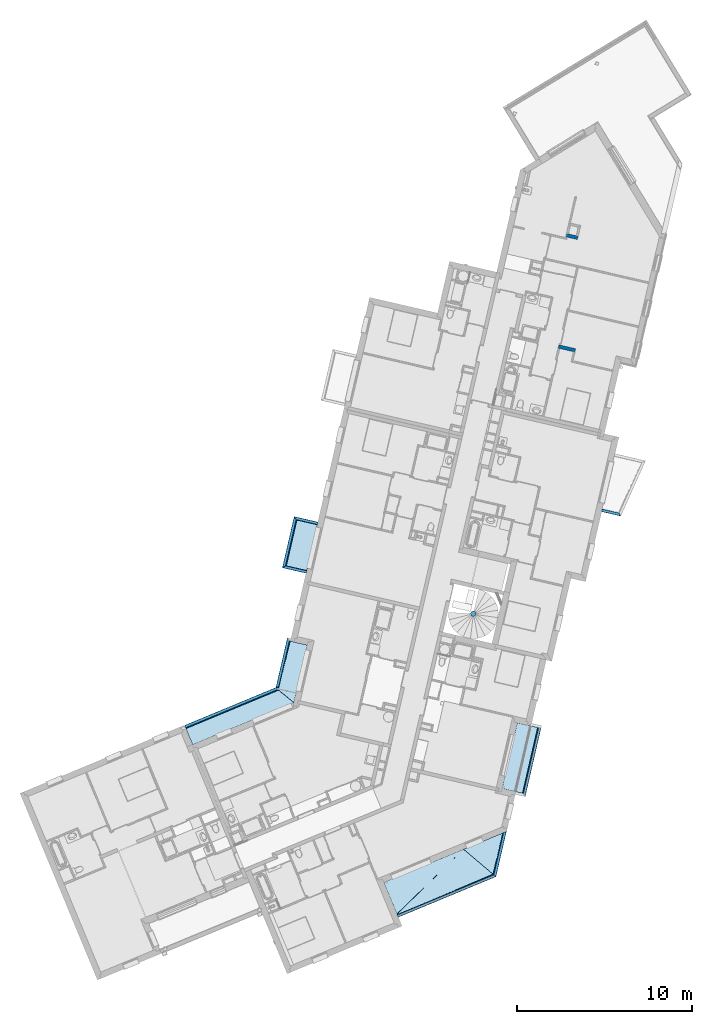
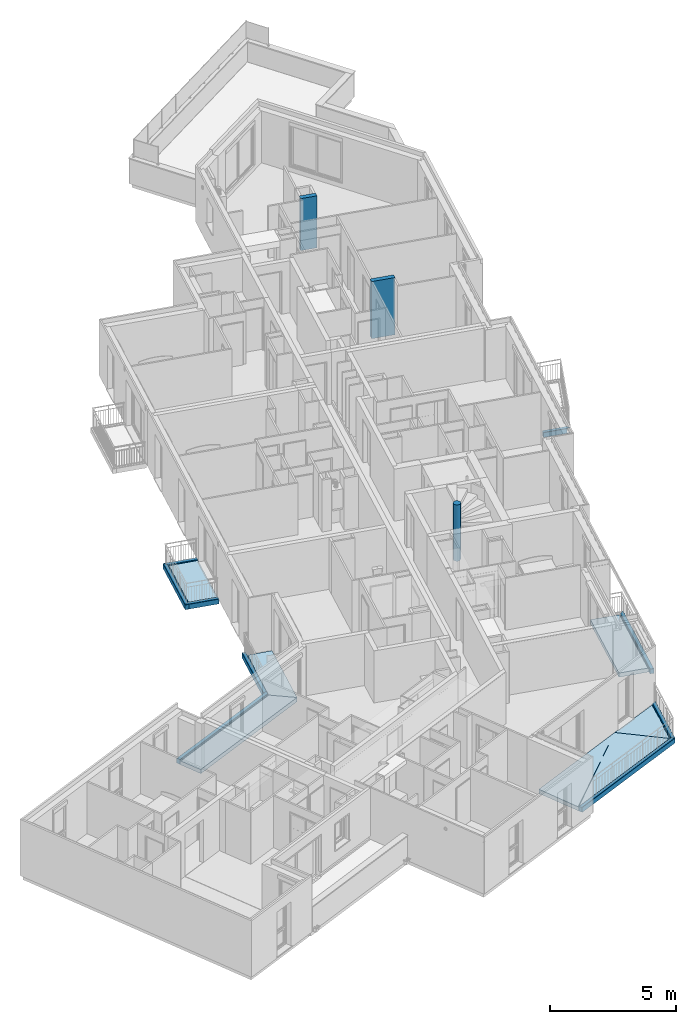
# One storey, part 1 of 91: 15 slabs, 2 columns, 1 member.
"""IFC2X3 building model written with IfcOpenShell, lengths in metres."""

import ifcopenshell
import ifcopenshell.guid

model = None  # the IFC model being written
_history = None  # IfcOwnerHistory: only IFC2X3 demands one
_inside = {}  # id of a spatial element -> (the spatial element, [elements in it])
_under = {}  # id of a project, library or spatial element -> (it, [spatial elements below it])
_declared = {}  # id of a project -> (the project, [libraries it declares])
_typed = {}  # id of a type object -> (the type object, [elements of that type])
_made_of = {}  # id of a material, layer set ... -> (it, [elements and type objects made of it])


def new_model(schema):
    """Start an empty IFC model of exactly this schema.

    Asked for "IFC4X3", IfcOpenShell would pick the latest addendum, in which some entities
    have other attributes; the version numbers below select the first issue.
    IFC2X3 requires an IfcOwnerHistory on every rooted entity: one is made here for all.
    """
    global model, _history
    if schema == "IFC4X3":
        model = ifcopenshell.file(schema_version=(4, 3, 0, 0))
    else:
        model = ifcopenshell.file(schema=schema)
    _inside.clear()
    _under.clear()
    _declared.clear()
    _typed.clear()
    _made_of.clear()
    _history = None
    if model.schema == "IFC2X3":
        org = make("IfcOrganization", Name="unknown")
        user = make(
            "IfcPersonAndOrganization",
            ThePerson=make("IfcPerson", FamilyName="unknown"),
            TheOrganization=org,
        )
        app = make(
            "IfcApplication",
            ApplicationDeveloper=org,
            Version="unknown",
            ApplicationFullName="unknown",
            ApplicationIdentifier="unknown",
        )
        _history = make(
            "IfcOwnerHistory",
            OwningUser=user,
            OwningApplication=app,
            ChangeAction="ADDED",
            CreationDate=0,
        )
    return model


def make(cls, **values):
    """One entity of the class cls with the attributes given. An attribute that is None is left unset."""
    return model.create_entity(
        cls, **{name: value for name, value in values.items() if value is not None}
    )


def entity(cls, *values):
    """Any entity or typed value of the class cls, its attributes in the order of the schema. None: left unset."""
    e = model.create_entity(cls)
    for i, value in enumerate(values):
        if value is not None:
            e[i] = value
    return e


def rooted(cls, **values):
    """An entity with a GlobalId (a new one), such as an element, a storey or a relation."""
    return make(cls, GlobalId=ifcopenshell.guid.new(), OwnerHistory=_history, **values)


def si_unit(unit_type, name, prefix=None):
    """IfcSIUnit, for example si_unit("LENGTHUNIT", "METRE", prefix="MILLI")."""
    return make("IfcSIUnit", UnitType=unit_type, Prefix=prefix, Name=name)


def converted_unit(unit_type, name, factor, base, dimensions=None, offset=None):
    """IfcConversionBasedUnit, such as the inch: factor (a typed value) times the base unit."""
    return make(
        "IfcConversionBasedUnit"
        if offset is None
        else "IfcConversionBasedUnitWithOffset",
        ConversionOffset=offset,
        Dimensions=None
        if dimensions is None
        else entity("IfcDimensionalExponents", *dimensions),
        UnitType=unit_type,
        Name=name,
        ConversionFactor=make(
            "IfcMeasureWithUnit", ValueComponent=factor, UnitComponent=base
        ),
    )


def derived_unit(unit_type, elements):
    """IfcDerivedUnit: a product of units, each with its exponent."""
    return make(
        "IfcDerivedUnit",
        Elements=[
            make("IfcDerivedUnitElement", Unit=unit, Exponent=power)
            for unit, power in elements
        ],
        UnitType=unit_type,
    )


def money_unit(currency):
    """IfcMonetaryUnit."""
    return make("IfcMonetaryUnit", Currency=currency)


def assignment(units):
    """IfcUnitAssignment: the units of a project."""
    return None if units is None else make("IfcUnitAssignment", Units=units)


def point(xyz):
    """IfcCartesianPoint."""
    return None if xyz is None else make("IfcCartesianPoint", Coordinates=xyz)


def direction(xyz):
    """IfcDirection."""
    return None if xyz is None else make("IfcDirection", DirectionRatios=xyz)


def frame(location, z_axis=None, x_axis=None):
    """IfcAxis2Placement3D, a coordinate frame: its origin and axes. An axis left out is left unset."""
    return make(
        "IfcAxis2Placement3D",
        Location=point(location),
        Axis=direction(z_axis),
        RefDirection=direction(x_axis),
    )


def origin_with_axes():
    """The frame at (0, 0, 0) with the z axis (0, 0, 1) and the x axis (1, 0, 0) written out."""
    return frame((0.0, 0.0, 0.0), z_axis=(0.0, 0.0, 1.0), x_axis=(1.0, 0.0, 0.0))


def place(relative_to, where):
    """IfcLocalPlacement: puts the frame where relative to a parent placement (None: the world)."""
    return make(
        "IfcLocalPlacement", PlacementRelTo=relative_to, RelativePlacement=where
    )


def context(
    kind, dimensions, precision=None, world=None, true_north=None, identifier=None
):
    """IfcGeometricRepresentationContext, for example the 3D "Model" context."""
    return make(
        "IfcGeometricRepresentationContext",
        ContextIdentifier=identifier,
        ContextType=kind,
        CoordinateSpaceDimension=dimensions,
        Precision=precision,
        WorldCoordinateSystem=world,
        TrueNorth=true_north,
    )


def subcontext(parent, identifier, kind, view, scale=None):
    """IfcGeometricRepresentationSubContext, for example "Body" below "Model"."""
    return make(
        "IfcGeometricRepresentationSubContext",
        ContextIdentifier=identifier,
        ContextType=kind,
        ParentContext=parent,
        TargetScale=scale,
        TargetView=view,
    )


def project(units=None, contexts=None):
    """IfcProject with its units and contexts."""
    return rooted(
        "IfcProject",
        Name="project",
        RepresentationContexts=contexts,
        UnitsInContext=assignment(units),
    )


def spatial(cls, under=None, at=None, **own):
    """A site, building, storey or space (cls), placed at a placement, below another one or the project."""
    s = rooted(cls, ObjectPlacement=at, **own)
    if under is not None:
        _under.setdefault(under.id(), (under, []))[1].append(s)
    return s


def faces_of(points, faces, orient=None, outer=None):
    """IfcFace entities. A face is a list of loops; a loop is a list of indices into points, from 0.

    orient and outer hold one flag for each loop. By default every Orientation is true, the
    first loop of a face is its IfcFaceOuterBound and the others are IfcFaceBound.
    """
    made = []
    for i, loops in enumerate(faces):
        bounds = []
        for j, loop in enumerate(loops):
            is_outer = j == 0 if outer is None else outer[i][j]
            bounds.append(
                make(
                    "IfcFaceOuterBound" if is_outer else "IfcFaceBound",
                    Bound=make("IfcPolyLoop", Polygon=[points[k] for k in loop]),
                    Orientation=True if orient is None else orient[i][j],
                )
            )
        made.append(make("IfcFace", Bounds=bounds))
    return made


def faceted_brep(points, faces, orient=None, outer=None, voids=None):
    """IfcFacetedBrep: a solid bounded by flat faces; with voids (closed shells), ...WithVoids."""
    shared = [point(p) for p in points]
    hull = make("IfcClosedShell", CfsFaces=faces_of(shared, faces, orient, outer))
    if voids is None:
        return make("IfcFacetedBrep", Outer=hull)
    return make(
        "IfcFacetedBrepWithVoids",
        Outer=hull,
        Voids=[
            make(cls, CfsFaces=faces_of(shared, fs, o, b)) for cls, fs, o, b in voids
        ],
    )


def shape(context_of_items, identifier, shape_type, items):
    """IfcShapeRepresentation: the items that make up one representation, for example the "Body"."""
    return make(
        "IfcShapeRepresentation",
        ContextOfItems=context_of_items,
        RepresentationIdentifier=identifier,
        RepresentationType=shape_type,
        Items=items,
    )


def material(Name=None, Category=None):
    """IfcMaterial."""
    return make("IfcMaterial", Name=Name, Category=Category)


def made_of(thing, what):
    """Note that an element or type object is made of a material, layer set ...; save() writes the relation."""
    if what is not None:
        _made_of.setdefault(what.id(), (what, []))[1].append(thing)
    return thing


def type_object(cls, material=None, **own):
    """A type object (cls), such as IfcWallType, which elements share."""
    return made_of(rooted(cls, **own), material)


def element(
    cls,
    number,
    at=None,
    inside=None,
    cuts=None,
    type_object=None,
    material=None,
    context=None,
    identifier="Body",
    shape_type=None,
    held_by="IfcProductDefinitionShape",
    body=None,
    shapes=None,
    **own,
):
    """One element of the class cls, such as IfcWall. Its Tag is "e" and its number.

    at: its placement. inside: the storey or other place that contains it. cuts: it is an
    opening in that element (IfcRelVoidsElement). A single representation is given by context,
    identifier, shape_type and body (its items); several are given by shapes. held_by: the class
    of the entity that holds the representations. save() writes the other relations.
    """
    e = rooted(cls, Tag="e%d" % number, ObjectPlacement=at, **own)
    if body is not None:
        shapes = [shape(context, identifier, shape_type, body)]
    if shapes is not None:
        e.Representation = make(held_by, Representations=shapes)
    if inside is not None:
        _inside.setdefault(inside.id(), (inside, []))[1].append(e)
    if cuts is not None:
        rooted(
            "IfcRelVoidsElement", RelatingBuildingElement=cuts, RelatedOpeningElement=e
        )
    if type_object is not None:
        _typed.setdefault(type_object.id(), (type_object, []))[1].append(e)
    return made_of(e, material)


def aggregate(whole, parts):
    """IfcRelAggregates: a whole, such as a stair, and the parts it consists of."""
    return rooted("IfcRelAggregates", RelatingObject=whole, RelatedObjects=parts)


def save(model, path):
    """Write the relations noted so far, then the file.

    IfcRelAggregates (storeys below a building ...), IfcRelContainedInSpatialStructure (elements
    in a storey), IfcRelDefinesByType, IfcRelAssociatesMaterial and IfcRelDeclares: one each for
    every whole, place, type object, material and project.
    """
    for whole, parts in _under.values():
        aggregate(whole, parts)
    for where, things in _inside.values():
        rooted(
            "IfcRelContainedInSpatialStructure",
            RelatedElements=things,
            RelatingStructure=where,
        )
    for kind, things in _typed.values():
        rooted("IfcRelDefinesByType", RelatedObjects=things, RelatingType=kind)
    for what, things in _made_of.values():
        rooted("IfcRelAssociatesMaterial", RelatedObjects=things, RelatingMaterial=what)
    for by, libraries in _declared.values():
        rooted("IfcRelDeclares", RelatingContext=by, RelatedDefinitions=libraries)
    model.write(path)


model = new_model("IFC2X3")

# Units and contexts
model_context = context("Model", 3, precision=1e-05, world=origin_with_axes(), true_north=direction((0.0, 1.0)))
body_context = subcontext(model_context, "Body", "Model", "MODEL_VIEW")
ifc_project = project(units=[si_unit("LENGTHUNIT", "METRE"), si_unit("AREAUNIT", "SQUARE_METRE"), si_unit("VOLUMEUNIT", "CUBIC_METRE"), converted_unit("PLANEANGLEUNIT", "DEGREE", entity("IfcPlaneAngleMeasure", 0.0174532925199), si_unit("PLANEANGLEUNIT", "RADIAN"), dimensions=[0, 0, 0, 0, 0, 0, 0]), si_unit("SOLIDANGLEUNIT", "STERADIAN"), money_unit("EUR"), converted_unit("TIMEUNIT", "Year", entity("IfcTimeMeasure", 31556926.0), si_unit("TIMEUNIT", "SECOND"), dimensions=[0, 0, 1, 0, 0, 0, 0]), si_unit("MASSUNIT", "GRAM", prefix="KILO"), si_unit("THERMODYNAMICTEMPERATUREUNIT", "DEGREE_CELSIUS"), si_unit("LUMINOUSINTENSITYUNIT", "LUMEN"), si_unit("ENERGYUNIT", "JOULE", prefix="MEGA"), derived_unit("THERMALCONDUCTANCEUNIT", [(si_unit("POWERUNIT", "WATT"), 1), (si_unit("LENGTHUNIT", "METRE"), -1), (si_unit("THERMODYNAMICTEMPERATUREUNIT", "KELVIN"), -1)]), derived_unit("SPECIFICHEATCAPACITYUNIT", [(si_unit("ENERGYUNIT", "JOULE"), 1), (si_unit("MASSUNIT", "GRAM", prefix="KILO"), -1), (si_unit("THERMODYNAMICTEMPERATUREUNIT", "KELVIN"), -1)]), derived_unit("MASSDENSITYUNIT", [(si_unit("MASSUNIT", "GRAM", prefix="KILO"), 1), (si_unit("VOLUMEUNIT", "CUBIC_METRE"), -1)])], contexts=[model_context])

# Site, building, storey
site_placement = place(None, origin_with_axes())
site = spatial("IfcSite", under=ifc_project, at=site_placement, Name="Site", CompositionType="ELEMENT")
building_placement = place(site_placement, origin_with_axes())
building = spatial("IfcBuilding", under=site, at=building_placement, Name="Bâtiment", CompositionType="ELEMENT")
storey_placement = place(building_placement, frame((0.0, 0.0, 5.44), z_axis=(0.0, 0.0, 1.0), x_axis=(1.0, 0.0, 0.0)))
storey = spatial("IfcBuildingStorey", under=building, at=storey_placement, Name="R+2", CompositionType="ELEMENT", Elevation=5.44)

# Columns
ifc_material_1 = material(Name="Béton armé (Coulé)")
column_type_1 = type_object("IfcColumnType", Name="Béton armé (Coulé) 200 x 672", PredefinedType="COLUMN")
column_1_placement = place(storey_placement, frame((-3.89795690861, 13.8398993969, 0.0), z_axis=(0.0, 0.0, 1.0), x_axis=(-0.224876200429, -0.974387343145, 0.0)))
element("IfcColumn", 1, at=column_1_placement, inside=storey, type_object=column_type_1, material=ifc_material_1, Name="Pot-002", ObjectType="COLUMN", context=body_context, shape_type="Brep", body=[
    faceted_brep([(0.1, 0.336198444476, 2.51000000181), (0.1, 0.336198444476, 0.0), (-0.1, 0.336198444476, 0.0), (-0.1, 0.336198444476, 2.51000000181), (0.1, -0.336198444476, 2.51000000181), (0.1, -0.336198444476, 0.0), (-0.1, -0.336198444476, 0.0), (-0.1, -0.336198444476, 2.51000000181)], [[[0, 1, 2, 3]], [[4, 5, 1, 0]], [[2, 1, 5, 6]], [[3, 2, 6, 7]], [[4, 0, 3, 7]], [[7, 6, 5, 4]]]),
])
column_type_2 = type_object("IfcColumnType", Name="Béton armé (Coulé) 200 x 971", PredefinedType="COLUMN")
column_2_placement = place(storey_placement, frame((-4.18580227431, 7.45201835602, -0.25), z_axis=(0.0, 0.0, 1.0), x_axis=(-0.224876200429, -0.974387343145, 0.0)))
element("IfcColumn", 2, at=column_2_placement, inside=storey, type_object=column_type_2, material=ifc_material_1, Name="Pot-002", ObjectType="COLUMN", context=body_context, shape_type="Brep", body=[
    faceted_brep([(0.1, 0.485304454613, 2.76), (0.1, 0.485304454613, 0.0), (-0.1, 0.485304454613, 0.0), (-0.1, 0.485304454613, 2.76), (0.1, -0.485304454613, 2.76), (0.1, -0.485304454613, 0.0), (-0.1, -0.485304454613, 0.0), (-0.1, -0.485304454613, 2.76)], [[[0, 1, 2, 3]], [[4, 5, 1, 0]], [[2, 1, 5, 6]], [[3, 2, 6, 7]], [[4, 0, 3, 7]], [[7, 6, 5, 4]]]),
])

# Member
ifc_material_2 = material(Name="Béton")
member_type = type_object("IfcMemberType", Name="Béton D300", PredefinedType="USERDEFINED")
member_placement = place(storey_placement, frame((-9.52980076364, -7.68659305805, 0.0), z_axis=(0.0, 0.0, 1.0), x_axis=(0.0549398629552, 0.998489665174, 0.0)))
element("IfcMember", 3, at=member_placement, inside=storey, type_object=member_type, material=ifc_material_2, Name="Pot-001", ObjectType="STAIR_STRUCTURE", context=body_context, shape_type="Brep", body=[
    faceted_brep([(-0.15, 0.0, 2.72), (-0.15, 0.0, 0.0), (-0.146239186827, -0.0333781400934, 0.0), (-0.146239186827, -0.0333781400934, 2.72), (-0.146239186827, 0.0333781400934, 2.72), (-0.146239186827, 0.0333781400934, 0.0), (-0.135145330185, 0.0650825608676, 0.0), (-0.11727472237, 0.0935234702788, 0.0), (-0.0935234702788, 0.11727472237, 0.0), (-0.0650825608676, 0.135145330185, 0.0), (-0.0333781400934, 0.146239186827, 0.0), (0.0, 0.15, 0.0), (0.0333781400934, 0.146239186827, 0.0), (0.0650825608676, 0.135145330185, 0.0), (0.0935234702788, 0.11727472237, 0.0), (0.11727472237, 0.0935234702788, 0.0), (0.135145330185, 0.0650825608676, 0.0), (0.146239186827, 0.0333781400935, 0.0), (0.15, 0.0, 0.0), (0.146239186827, -0.0333781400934, 0.0), (0.135145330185, -0.0650825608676, 0.0), (0.11727472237, -0.0935234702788, 0.0), (0.0935234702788, -0.11727472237, 0.0), (0.0650825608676, -0.135145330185, 0.0), (0.0333781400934, -0.146239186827, 0.0), (0.0, -0.15, 0.0), (-0.0333781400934, -0.146239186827, 0.0), (-0.0650825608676, -0.135145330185, 0.0), (-0.0935234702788, -0.11727472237, 0.0), (-0.11727472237, -0.0935234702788, 0.0), (-0.135145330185, -0.0650825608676, 0.0), (-0.135145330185, -0.0650825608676, 2.72), (-0.11727472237, -0.0935234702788, 2.72), (-0.0935234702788, -0.11727472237, 2.72), (-0.0650825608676, -0.135145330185, 2.72), (-0.0333781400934, -0.146239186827, 2.72), (0.0, -0.15, 2.72), (0.0333781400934, -0.146239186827, 2.72), (0.0650825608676, -0.135145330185, 2.72), (0.0935234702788, -0.11727472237, 2.72), (0.11727472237, -0.0935234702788, 2.72), (0.135145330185, -0.0650825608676, 2.72), (0.146239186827, -0.0333781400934, 2.72), (0.15, 0.0, 2.72), (0.146239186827, 0.0333781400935, 2.72), (0.135145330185, 0.0650825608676, 2.72), (0.11727472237, 0.0935234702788, 2.72), (0.0935234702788, 0.11727472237, 2.72), (0.0650825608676, 0.135145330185, 2.72), (0.0333781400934, 0.146239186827, 2.72), (0.0, 0.15, 2.72), (-0.0333781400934, 0.146239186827, 2.72), (-0.0650825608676, 0.135145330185, 2.72), (-0.0935234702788, 0.11727472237, 2.72), (-0.11727472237, 0.0935234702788, 2.72), (-0.135145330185, 0.0650825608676, 2.72)], [[[0, 1, 2, 3]], [[4, 5, 1, 0]], [[2, 1, 5, 6, 7, 8, 9, 10, 11, 12, 13, 14, 15, 16, 17, 18, 19, 20, 21, 22, 23, 24, 25, 26, 27, 28, 29, 30]], [[3, 2, 30, 31]], [[4, 0, 3, 31, 32, 33, 34, 35, 36, 37, 38, 39, 40, 41, 42, 43, 44, 45, 46, 47, 48, 49, 50, 51, 52, 53, 54, 55]], [[55, 6, 5, 4]], [[54, 7, 6, 55]], [[53, 8, 7, 54]], [[52, 9, 8, 53]], [[51, 10, 9, 52]], [[50, 11, 10, 51]], [[49, 12, 11, 50]], [[48, 13, 12, 49]], [[47, 14, 13, 48]], [[46, 15, 14, 47]], [[45, 16, 15, 46]], [[44, 17, 16, 45]], [[43, 18, 17, 44]], [[42, 19, 18, 43]], [[41, 20, 19, 42]], [[40, 21, 20, 41]], [[39, 22, 21, 40]], [[38, 23, 22, 39]], [[37, 24, 23, 38]], [[36, 25, 24, 37]], [[35, 26, 25, 36]], [[34, 27, 26, 35]], [[33, 28, 27, 34]], [[32, 29, 28, 33]], [[31, 30, 29, 32]]]),
])

# Slabs
slab_type_1 = type_object("IfcSlabType", Name="Nez de balcon 160 x 239", PredefinedType="USERDEFINED")
slab_1_placement = place(storey_placement, frame((-5.62822290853, -14.0694469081, -0.22), z_axis=(0.0, 0.0, 1.0), x_axis=(-0.224876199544, -0.974387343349, 0.0)))
element("IfcSlab", 4, at=slab_1_placement, inside=storey, type_object=slab_type_1, material=ifc_material_2, Name="Nez-de-balcon béton", ObjectType="BALCONY", PredefinedType="USERDEFINED", context=body_context, shape_type="Brep", body=[
    faceted_brep([(4.15549377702, -0.00998052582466, 0.239376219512), (4.16707891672, -0.150019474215, 0.230623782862), (4.16775247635, -0.150605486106, 0.230000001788), (4.16531401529, 0.0, 0.230000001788), (0.00998052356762, -0.00998052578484, 0.239376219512), (0.150019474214, -0.150019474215, 0.230623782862), (0.159999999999, -0.16, 0.22), (4.1679045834, -0.16, 0.22), (4.16571669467, -0.0248704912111, 0.00872065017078), (4.16561006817, -0.018284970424, 0.00622819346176), (4.16555688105, -0.015, 0.0), (4.16531401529, 0.0, 0.0), (4.16790458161, -0.16, 0.00872064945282), (0.150019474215, -0.000663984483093, 0.230623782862), (0.150605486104, 0.0, 0.23000000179), (4.13644444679, -0.16, 0.00622819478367), (4.14303083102, -0.16, 0.00872064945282), (0.159999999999, -0.16, 0.00872064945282), (0.159999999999, -0.16, 0.0), (4.1331590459, -0.16, 0.0), (0.16, 0.0, 0.22), (0.0182849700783, -0.0182849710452, 0.00622819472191), (4.14084294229, -0.0248704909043, 0.00872064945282), (0.16, -0.0248704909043, 0.00872064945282), (0.0248704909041, -0.0248704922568, 0.00872065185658), (0.0149999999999, -0.0150000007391, 0.0), (0.015, 0.0, 0.0), (0.0182849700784, 0.0, 0.00622819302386), (0.0248704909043, 0.0, 0.00872064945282), (0.16, 0.0, 0.00872065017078), (4.13436318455, -0.0314560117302, 0.00622819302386), (0.16, -0.0314560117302, 0.00622819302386), (0.16, -0.0347409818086, 0.0), (4.13113097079, -0.0347409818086, 0.0)], [[[0, 1, 2, 3]], [[1, 0, 4, 5]], [[6, 7, 2, 1, 5]], [[8, 9, 10, 11, 3, 2, 7, 12]], [[13, 4, 0, 3, 14]], [[4, 13, 5]], [[15, 16, 12, 7, 6, 17, 18, 19]], [[14, 20, 6, 5, 13]], [[21, 9, 8, 22, 23, 24]], [[25, 10, 9, 21]], [[26, 11, 10, 25]], [[14, 3, 11, 26, 27, 28, 29, 20]], [[16, 22, 8, 12]], [[30, 22, 16, 15]], [[6, 20, 29, 23, 17]], [[23, 31, 32, 18, 17]], [[32, 33, 19, 18]], [[19, 33, 30, 15]], [[23, 22, 30, 31]], [[24, 23, 29, 28]], [[24, 28, 27, 21]], [[21, 27, 26, 25]], [[31, 30, 33, 32]]]),
])
slab_2_placement = place(storey_placement, frame((-13.8185121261, -25.0128508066, -0.22), z_axis=(0.0, 0.0, 1.0), x_axis=(0.923701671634, 0.383112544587, 0.0)))
element("IfcSlab", 5, at=slab_2_placement, inside=storey, type_object=slab_type_1, material=ifc_material_2, Name="Nez-de-balcon béton", ObjectType="BALCONY", PredefinedType="USERDEFINED", context=body_context, shape_type="Brep", body=[
    faceted_brep([(6.06230733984, 0.0248704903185, 0.00872065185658), (6.03174979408, 0.0248704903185, 0.00872065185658), (6.12821580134, 0.16, 0.00872065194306), (6.15877334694, 0.16, 0.00872064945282), (0.0, 0.0248704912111, 0.00872065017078), (6.05760608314, 0.018284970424, 0.00622819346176), (0.0, 0.018284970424, 0.00622819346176), (6.02835964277, 0.0314560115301, 0.00622819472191), (6.12012439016, 0.16, 0.00622819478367), (6.11608825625, 0.16, 0.0), (0.0, 0.16, 0.0), (0.0, 0.16, 0.22), (6.15877334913, 0.16, 0.22), (6.15206681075, 0.150605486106, 0.230000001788), (6.0445528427, 1.10591358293e-09, 0.230000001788), (6.04455284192, 0.0, 0.0), (6.05526101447, 0.015, 0.0), (0.0, 0.0314560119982, 0.00622819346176), (0.0, 0.015, 0.0), (0.0, 0.00998052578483, 0.239376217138), (0.0, 0.150019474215, 0.230623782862), (0.0, 0.0347409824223, 0.0), (0.0, 0.0, 0.0), (0.0, 0.0, 0.23), (6.02666857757, 0.0347409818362, 0.0), (6.15083265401, 0.150019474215, 0.230623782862), (6.03941498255, 0.00998052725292, 0.239376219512)], [[[0, 1, 2, 3]], [[4, 1, 0, 5, 6]], [[7, 8, 2, 1]], [[2, 8, 9, 10, 11, 12, 3]], [[5, 0, 3, 12, 13, 14, 15, 16]], [[17, 7, 1, 4]], [[18, 6, 5, 16]], [[19, 20, 11, 10, 21, 17, 4, 6, 18, 22, 23]], [[24, 9, 8, 7]], [[10, 9, 24, 21]], [[11, 20, 25, 13, 12]], [[26, 14, 13, 25]], [[23, 22, 15, 14]], [[22, 18, 16, 15]], [[21, 24, 7, 17]], [[20, 19, 26, 25]], [[19, 23, 14, 26]]]),
])
slab_3_placement = place(storey_placement, frame((-7.6424895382, -20.1291184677, -0.22), z_axis=(0.0, 0.0, 1.0), x_axis=(-0.224876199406, -0.974387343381, 0.0)))
element("IfcSlab", 6, at=slab_3_placement, inside=storey, type_object=slab_type_1, material=ifc_material_2, Name="Nez-de-balcon béton", ObjectType="BALCONY", PredefinedType="USERDEFINED", context=body_context, shape_type="Brep", body=[
    faceted_brep([(2.45665804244, -0.0248704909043, 0.00872064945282), (2.55312404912, -0.16, 0.00872064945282), (2.55312404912, -0.16, 0.0), (2.46370437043, -0.0347409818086, 0.0), (2.461359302, -0.0314560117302, 0.00622819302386), (2.43890354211, -2.83308487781e-10, 0.00872065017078), (2.43890354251, -8.45245651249e-10, 0.22), (2.55312404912, -0.16, 0.22), (0.0957905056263, -0.16, 0.00872064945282), (0.0957905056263, -0.16, 0.0), (0.0957905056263, -0.16, 0.22), (0.0957905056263, -0.16, 0.02), (0.0957905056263, -0.16, 0.00999999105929), (0.00637082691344, -0.0347409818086, 0.0), (0.00402575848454, -0.0314560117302, 0.00622819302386), (-0.000675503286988, -0.0248704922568, 0.00872065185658), (2.60493267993, 0.0, 0.00872064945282), (2.61302409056, 0.0, 0.00622819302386), (2.61706022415, 0.0, 0.0), (-0.0184300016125, 0.0, 0.0), (-0.0184300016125, 0.0, 0.00872065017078), (-0.0184300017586, 2.04632755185e-10, 0.00999999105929), (-0.0184300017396, 1.78037140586e-10, 0.02), (-0.0184300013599, -3.53900908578e-10, 0.22), (-0.0184300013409, -3.80498299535e-10, 0.230000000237), (2.45044626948, -8.74151417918e-10, 0.23000000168), (2.45164028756, -0.000663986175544, 0.230623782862), (2.55826190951, -0.150019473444, 0.230623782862), (2.6226871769, -0.0248704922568, 0.00872065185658), (0.0886656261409, -0.150019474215, 0.230623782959), (-0.00537675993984, -0.0182849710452, 0.00622819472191), (2.62607732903, -0.0182849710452, 0.00622819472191), (2.62776839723, -0.0150000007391, 0.0), (-0.00772182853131, -0.0150000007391, 0.0), (-0.0113050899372, -0.00998057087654, 0.239376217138), (2.63035236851, -0.00998052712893, 0.239376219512)], [[[0, 1, 2, 3, 4]], [[5, 6, 7, 1, 0]], [[8, 9, 2, 1, 7, 10, 11, 12]], [[9, 13, 3, 2]], [[13, 14, 4, 3]], [[14, 15, 0, 4]], [[5, 16, 17, 18, 19, 20, 21, 22, 23, 24, 25, 6]], [[25, 26, 27, 7, 6]], [[5, 0, 28, 16]], [[15, 14, 13, 9, 8]], [[29, 10, 7, 27]], [[23, 22, 11, 10]], [[22, 21, 12, 11]], [[20, 15, 8, 12, 21]], [[15, 30, 31, 28, 0]], [[16, 28, 31, 17]], [[17, 31, 32, 18]], [[33, 19, 18, 32]], [[20, 19, 33, 30, 15]], [[24, 23, 10, 29, 34]], [[24, 34, 35, 26, 25]], [[27, 26, 35]], [[34, 29, 27, 35]], [[30, 33, 32, 31]]]),
])
slab_4_placement = place(storey_placement, frame((-19.7551998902, -2.14216067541, -0.22), z_axis=(0.0, 0.0, 1.0), x_axis=(-0.224876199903, -0.974387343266, 0.0)))
element("IfcSlab", 7, at=slab_4_placement, inside=storey, type_object=slab_type_1, material=ifc_material_2, Name="Nez-de-balcon béton", ObjectType="BALCONY", PredefinedType="USERDEFINED", context=body_context, shape_type="Brep", body=[
    faceted_brep([(3.0, 0.16, 0.00872064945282), (2.97512950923, 0.16, 0.00872065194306), (2.96854398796, 0.16, 0.00622819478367), (2.96525901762, 0.16, 0.0), (0.0347409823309, 0.16, 0.0), (0.0314560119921, 0.16, 0.00622819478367), (0.0248704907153, 0.16, 0.00872065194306), (0.0, 0.16, 0.00872064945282), (-1.78813763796e-09, 0.16, 0.22), (3.00000000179, 0.16, 0.22), (3.0, 0.0248704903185, 0.00872065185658), (2.97512950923, 0.0248704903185, 0.00872065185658), (2.96854398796, 0.0314560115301, 0.00622819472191), (2.96525901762, 0.0347409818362, 0.0), (0.0347409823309, 0.0347409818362, 0.0), (0.0314560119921, 0.0314560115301, 0.00622819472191), (0.0248704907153, 0.0248704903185, 0.00872065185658), (0.0, 0.0248704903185, 0.00872065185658), (-1.78813763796e-09, 0.018284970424, 0.00622819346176), (-1.78813674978e-09, 0.015, 0.0), (-1.78813763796e-09, 0.0, 0.0), (-1.78813763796e-09, 0.0, 0.230000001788), (-1.78813763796e-09, 0.150605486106, 0.230000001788), (0.0006639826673, 0.150019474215, 0.230623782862), (2.99933601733, 0.150019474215, 0.230623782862), (3.00000000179, 0.150605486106, 0.230000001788), (3.00000000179, 0.018284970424, 0.00622819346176), (3.00000000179, 0.0, 0.230000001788), (3.00000000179, 0.0, 0.0), (3.00000000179, 0.015, 0.0), (0.0099805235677, 0.00998052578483, 0.239376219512), (2.99001947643, 0.00998052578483, 0.239376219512)], [[[0, 1, 2, 3, 4, 5, 6, 7, 8, 9]], [[10, 11, 1, 0]], [[12, 2, 1, 11]], [[12, 13, 3, 2]], [[4, 3, 13, 14]], [[15, 5, 4, 14]], [[15, 16, 6, 5]], [[7, 6, 16, 17]], [[8, 7, 17, 18, 19, 20, 21, 22]], [[22, 23, 24, 25, 9, 8]], [[26, 10, 0, 9, 25, 27, 28, 29]], [[16, 11, 10, 26, 18, 17]], [[15, 12, 11, 16]], [[14, 13, 12, 15]], [[19, 18, 26, 29]], [[20, 19, 29, 28]], [[21, 20, 28, 27]], [[21, 30, 23, 22]], [[23, 30, 31, 24]], [[31, 27, 25, 24]], [[30, 21, 27, 31]]]),
])
slab_5_placement = place(storey_placement, frame((-19.7551998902, -2.14216067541, -0.22), z_axis=(0.0, 0.0, 1.0), x_axis=(0.974387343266, -0.224876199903, 0.0)))
element("IfcSlab", 8, at=slab_5_placement, inside=storey, type_object=slab_type_1, material=ifc_material_2, Name="Nez-de-balcon béton", ObjectType="BALCONY", PredefinedType="USERDEFINED", context=body_context, shape_type="Brep", body=[
    faceted_brep([(1.40000000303, -0.16, 0.0), (0.16, -0.16, 0.0), (0.16, -0.0347409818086, 0.0), (1.40000000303, -0.0347409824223, 0.0), (0.16, -0.16, 0.22), (0.16, -0.16, 0.00872064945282), (1.40000000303, -0.16, 0.22), (0.16, -0.0314560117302, 0.00622819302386), (0.16, -0.0248704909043, 0.00872064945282), (1.40000000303, -0.0314560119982, 0.00622819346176), (1.40000000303, -0.0248704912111, 0.00872065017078), (1.40000000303, -0.018284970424, 0.00622819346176), (1.40000000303, -0.015, 0.0), (1.40000000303, 0.0, 0.0), (1.40000000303, 0.0, 0.23), (1.40000000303, -0.00998052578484, 0.239376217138), (1.40000000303, -0.150019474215, 0.230623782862), (0.16, 0.0, 0.22), (0.16, 0.0, 0.00872065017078), (0.150019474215, -0.150019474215, 0.230623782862), (0.0248704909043, -0.0248704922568, 0.00872065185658), (0.0182849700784, -0.0182849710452, 0.00622819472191), (0.015, -0.0150000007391, 0.0), (0.015, 0.0, 0.0), (0.0182849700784, 0.0, 0.00622819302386), (0.0248704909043, 0.0, 0.00872064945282), (0.150605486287, 0.0, 0.230000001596), (0.150019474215, -0.000663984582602, 0.230623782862), (0.0099805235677, -0.00998052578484, 0.239376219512)], [[[0, 1, 2, 3]], [[4, 5, 1, 0, 6]], [[7, 2, 1, 5, 8]], [[9, 3, 2, 7]], [[6, 0, 3, 9, 10, 11, 12, 13, 14, 15, 16]], [[8, 5, 4, 17, 18]], [[16, 19, 4, 6]], [[10, 9, 7, 8]], [[10, 8, 20, 21, 11]], [[11, 21, 22, 12]], [[12, 22, 23, 13]], [[13, 23, 24, 25, 18, 17, 26, 14]], [[14, 26, 27, 28, 15]], [[15, 28, 19, 16]], [[17, 4, 19, 27, 26]], [[25, 20, 8, 18]], [[24, 21, 20, 25]], [[23, 22, 21, 24]], [[27, 19, 28]]]),
])
slab_6_placement = place(storey_placement, frame((-20.4298284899, -5.06532270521, -0.22), z_axis=(0.0, 0.0, 1.0), x_axis=(0.974387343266, -0.224876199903, 0.0)))
element("IfcSlab", 9, at=slab_6_placement, inside=storey, type_object=slab_type_1, material=ifc_material_2, Name="Nez-de-balcon béton", ObjectType="BALCONY", PredefinedType="USERDEFINED", context=body_context, shape_type="Brep", body=[
    faceted_brep([(0.0182849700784, 0.0182849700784, 0.00622819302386), (0.015, 0.015, 0.0), (0.015, 0.0, 0.0), (0.0182849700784, 0.0, 0.00622819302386), (1.39999999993, 0.015, 0.0), (1.39999999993, 0.018284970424, 0.00622819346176), (1.39999999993, 0.0, 0.0), (0.150605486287, 0.0, 0.230000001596), (0.16, 0.0, 0.22), (0.16, 0.0, 0.00872065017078), (0.0248704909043, 0.0, 0.00872064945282), (1.39999999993, 0.0, 0.23), (0.0248704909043, 0.0248704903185, 0.00872065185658), (0.16, 0.0248704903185, 0.00872065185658), (1.39999999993, 0.0248704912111, 0.00872065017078), (1.39999999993, 0.00998052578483, 0.239376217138), (1.39999999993, 0.0314560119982, 0.00622819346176), (1.39999999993, 0.0347409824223, 0.0), (1.39999999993, 0.16, 0.0), (1.39999999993, 0.16, 0.22), (1.39999999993, 0.150019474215, 0.230623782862), (0.16, 0.16, 0.22), (0.150019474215, 0.000663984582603, 0.230623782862), (0.150019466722, 0.150019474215, 0.23062378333), (0.16, 0.16, 0.00872064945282), (0.00998052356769, 0.00998052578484, 0.239376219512), (0.16, 0.0314560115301, 0.00622819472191), (0.16, 0.0347409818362, 0.0), (0.16, 0.16, 0.0)], [[[0, 1, 2, 3]], [[4, 1, 0, 5]], [[6, 2, 1, 4]], [[7, 8, 9, 10, 3, 2, 6, 11]], [[0, 3, 10, 12]], [[0, 12, 13, 14, 5]], [[15, 11, 6, 4, 5, 14, 16, 17, 18, 19, 20]], [[21, 8, 7, 22, 23]], [[24, 13, 9, 8, 21]], [[10, 9, 13, 12]], [[25, 22, 7, 11, 15]], [[14, 13, 26, 16]], [[16, 26, 27, 17]], [[18, 17, 27, 28]], [[18, 28, 24, 21, 19]], [[19, 21, 23, 20]], [[23, 25, 15, 20]], [[23, 22, 25]], [[27, 26, 13, 24, 28]]]),
])
slab_7_placement = place(storey_placement, frame((-20.795535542, -11.8972610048, -0.21), z_axis=(0.0, 0.0, 1.0), x_axis=(0.224876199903, 0.974387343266, 0.0)))
element("IfcSlab", 10, at=slab_7_placement, inside=storey, type_object=slab_type_1, material=ifc_material_2, Name="Nez-de-balcon béton", ObjectType="BALCONY", PredefinedType="USERDEFINED", context=body_context, shape_type="Brep", body=[
    faceted_brep([(0.0, 0.0, 0.00872064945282), (0.0, 0.0, 0.0), (0.0107081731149, -0.0150000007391, 0.0), (0.0130532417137, -0.0182849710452, 0.00622819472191), (0.0177545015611, -0.0248704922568, 0.00872065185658), (2.92078646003, 0.0, 0.0), (0.0, 0.0, 0.23), (2.92078646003, 0.0, 0.230000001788), (2.92078646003, -0.015, 0.0), (2.92078646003, -0.018284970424, 0.00622819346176), (2.89591596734, -0.0248704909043, 0.00872064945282), (2.92078646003, -0.0248704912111, 0.00872065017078), (0.114220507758, -0.160000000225, 0.00872065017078), (0.114220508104, -0.160000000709, 0.219999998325), (0.10751397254, -0.150605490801, 0.23), (-0.00513785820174, -0.00998052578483, 0.239376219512), (2.91080593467, -0.00998052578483, 0.239376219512), (2.92078646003, -0.150605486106, 0.230000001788), (2.92078646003, -0.160000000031, 0.219999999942), (2.92078645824, -0.16, 0.00872064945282), (-0.0161931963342, -0.0314560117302, 0.00622819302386), (-0.0128030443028, -0.0248704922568, 0.00872065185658), (2.88933044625, -0.0314560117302, 0.00622819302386), (2.89591596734, -0.16, 0.00872064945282), (0.0836629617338, -0.16, 0.00872064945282), (0.0755715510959, -0.16, 0.00622819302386), (0.0715354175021, -0.16, 0.0), (2.88604547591, -0.16, 0.0), (2.88933044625, -0.16, 0.00622819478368), (2.92012247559, -0.150019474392, 0.230623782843), (0.106279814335, -0.150019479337, 0.230623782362), (2.88604547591, -0.0347409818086, 0.0), (-0.0178842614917, -0.0347409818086, 0.0)], [[[0, 1, 2, 3, 4]], [[5, 1, 0, 6, 7]], [[8, 2, 1, 5]], [[9, 3, 2, 8]], [[10, 4, 3, 9, 11]], [[6, 0, 4, 12, 13, 14]], [[7, 6, 15, 16]], [[9, 8, 5, 7, 17, 18, 19, 11]], [[20, 21, 4, 10, 22]], [[23, 10, 11, 19]], [[12, 4, 21, 24]], [[24, 25, 26, 27, 28, 23, 19, 18, 13, 12]], [[29, 30, 14, 13, 18, 17]], [[30, 15, 6, 14]], [[16, 15, 30, 29]], [[7, 16, 29, 17]], [[24, 21, 20, 25]], [[28, 22, 10, 23]], [[31, 32, 20, 22]], [[25, 20, 32, 26]], [[27, 26, 32, 31]], [[27, 31, 22, 28]]]),
])
slab_8_placement = place(storey_placement, frame((-1.11220619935, -2.11855110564, -0.22), z_axis=(0.0, 0.0, 1.0), x_axis=(-0.974387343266, 0.224876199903, 0.0)))
element("IfcSlab", 11, at=slab_8_placement, inside=storey, type_object=slab_type_1, material=ifc_material_2, Name="Nez-de-balcon béton", ObjectType="BALCONY", PredefinedType="USERDEFINED", context=body_context, shape_type="Brep", body=[
    faceted_brep([(1.13448697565, -0.015, 0.0), (1.13448697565, 0.0, 0.0), (1.13448697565, 0.0, 0.23), (1.13448697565, -0.00998052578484, 0.239376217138), (1.13448697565, -0.150019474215, 0.230623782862), (1.13448697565, -0.16, 0.22), (1.13448697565, -0.16, 0.0), (1.13448697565, -0.0347409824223, 0.0), (1.13448697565, -0.0314560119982, 0.00622819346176), (1.13448697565, -0.0248704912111, 0.00872065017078), (1.13448697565, -0.018284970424, 0.00622819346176), (0.0152900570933, 0.0, 0.0), (0.0123259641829, -0.0150000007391, 0.0), (0.153517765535, 0.0, 0.230000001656), (0.0186385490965, 0.0, 0.00622819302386), (0.0253514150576, 0.0, 0.00872064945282), (0.163093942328, 0.0, 0.00872065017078), (0.163093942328, 0.0, 0.22), (0.00820130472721, -0.00998052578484, 0.239376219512), (0.152789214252, -0.000663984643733, 0.230623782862), (0.123275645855, -0.150019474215, 0.230623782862), (0.131476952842, -0.16, 0.22), (0.131476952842, -0.16, 0.00872064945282), (0.131476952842, -0.16, 0.0), (0.156228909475, -0.0347409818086, 0.0), (0.156878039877, -0.0314560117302, 0.00622819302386), (0.158179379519, -0.0248704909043, 0.00872064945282), (0.0150253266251, -0.0182849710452, 0.00622819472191), (0.0204368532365, -0.0248704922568, 0.00872065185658)], [[[0, 1, 2, 3, 4, 5, 6, 7, 8, 9, 10]], [[11, 1, 0, 12]], [[13, 2, 1, 11, 14, 15, 16, 17]], [[18, 3, 2, 13, 19]], [[20, 4, 3, 18]], [[21, 5, 4, 20]], [[22, 23, 6, 5, 21]], [[24, 7, 6, 23]], [[25, 8, 7, 24]], [[26, 9, 8, 25]], [[27, 10, 9, 26, 28]], [[12, 0, 10, 27]], [[14, 11, 12, 27]], [[28, 15, 14, 27]], [[28, 26, 16, 15]], [[17, 16, 26, 22, 21]], [[19, 13, 17, 21, 20]], [[20, 18, 19]], [[25, 24, 23, 22, 26]]]),
])
slab_9_placement = place(storey_placement, frame((-26.0072946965, -14.0588791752, -0.21), z_axis=(0.0, 0.0, 1.0), x_axis=(0.923701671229, 0.383112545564, 0.0)))
element("IfcSlab", 12, at=slab_9_placement, inside=storey, type_object=slab_type_1, material=ifc_material_2, Name="Nez-de-balcon béton", ObjectType="BALCONY", PredefinedType="USERDEFINED", context=body_context, shape_type="Brep", body=[
    faceted_brep([(5.82108586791, -0.0248704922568, 0.00872065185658), (5.65505672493, -0.0248704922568, 0.00872065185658), (5.67281122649, 0.0, 0.00872065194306), (5.83884036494, 0.0, 0.00872064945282), (0.0, -0.0248704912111, 0.00872065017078), (5.81638460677, -0.0314560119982, 0.00622819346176), (0.0, -0.0314560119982, 0.00622819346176), (5.65166657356, -0.0182849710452, 0.00622819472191), (5.6647198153, 0.0, 0.00622819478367), (5.66068368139, 0.0, 0.0), (0.0, 0.0, 0.0), (0.0, 0.0, 0.23), (5.82729764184, 0.0, 0.23), (5.83884036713, 0.0, 0.219999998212), (5.72461985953, -0.16, 0.219999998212), (5.72461985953, -0.16, 0.0), (5.81403953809, -0.0347409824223, 0.0), (0.0, -0.018284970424, 0.00622819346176), (0.0, -0.0347409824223, 0.0), (0.0, -0.16, 0.0), (0.0, -0.16, 0.22), (0.0, -0.150019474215, 0.230623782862), (0.0, -0.00998052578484, 0.239376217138), (0.0, -0.015, 0.0), (5.64997550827, -0.0150000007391, 0.0), (5.64739155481, -0.00998050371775, 0.239376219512), (5.82610362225, -0.000663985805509, 0.230623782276), (5.71948199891, -0.150019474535, 0.230623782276)], [[[0, 1, 2, 3]], [[4, 1, 0, 5, 6]], [[7, 8, 2, 1]], [[2, 8, 9, 10, 11, 12, 13, 3]], [[5, 0, 3, 13, 14, 15, 16]], [[17, 7, 1, 4]], [[18, 6, 5, 16]], [[6, 18, 19, 20, 21, 22, 11, 10, 23, 17, 4]], [[24, 9, 8, 7]], [[10, 9, 24, 23]], [[22, 25, 26, 12, 11]], [[27, 14, 13, 12, 26]], [[20, 19, 15, 14]], [[19, 18, 16, 15]], [[23, 24, 7, 17]], [[21, 20, 14, 27]], [[22, 21, 27, 25]], [[25, 27, 26]]]),
])
slab_type_2 = type_object("IfcSlabType", Name="Béton", PredefinedType="USERDEFINED")
slab_10_placement = place(storey_placement, frame((-10.0897756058, -22.5808700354, -0.22), z_axis=(0.0, 0.0, 1.0), x_axis=(1.0, 0.0, 0.0)))
element("IfcSlab", 13, at=slab_10_placement, inside=storey, type_object=slab_type_2, material=ifc_material_2, Name="Dalle de balcon béton", ObjectType="BALCONY", PredefinedType="USERDEFINED", context=body_context, shape_type="Brep", body=[
    faceted_brep([(1.68290227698, 0.0290591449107, 0.185321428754), (2.24220245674, 2.38293055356, 0.175417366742), (0.0, 1.45295942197, 0.198273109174), (1.69155247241, 0.0217402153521, 0.16), (0.0, 1.45295942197, 0.0), (2.24920558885, 2.38583513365, 0.16), (2.2698430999, 2.39439470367, 0.16), (2.2698430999, 2.39439470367, 0.0), (1.71724723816, 0.0, 0.0), (1.71724723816, 0.0, 0.16)], [[[0, 1, 2]], [[0, 3, 1]], [[4, 2, 1, 5, 6, 7]], [[8, 9, 3, 0, 2, 4]], [[3, 9, 1]], [[5, 1, 9]], [[6, 5, 9]], [[7, 6, 9, 8]], [[4, 7, 8]]]),
])
slab_11_placement = place(storey_placement, frame((-14.6460352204, -24.8650585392, -0.22), z_axis=(0.0, 0.0, 1.0), x_axis=(1.0, 0.0, 0.0)))
element("IfcSlab", 14, at=slab_11_placement, inside=storey, type_object=slab_type_2, material=ifc_material_2, Name="Dalle de balcon béton", ObjectType="BALCONY", PredefinedType="USERDEFINED", context=body_context, shape_type="Brep", body=[
    faceted_brep([(6.23916191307, 2.31324768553, 0.185321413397), (4.55625963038, 3.73714793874, 0.198273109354), (0.766225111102, 0.0, 0.16), (4.55625963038, 3.73714793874, 0.0), (6.24774819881, 2.3059828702, 0.16), (6.27350686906, 2.28418851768, 0.16), (6.27350686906, 2.28418851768, 0.0), (0.754731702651, 0.0277110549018, 0.16), (0.0, 1.84740337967, 0.0), (0.0, 1.84740337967, 0.198273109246), (0.766225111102, 0.0, 0.0), (0.750900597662, 0.0369480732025, 0.185321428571)], [[[0, 1, 2]], [[3, 1, 0, 4, 5, 6]], [[7, 2, 1]], [[4, 0, 2]], [[8, 9, 1, 3]], [[5, 4, 2]], [[6, 5, 2, 10]], [[8, 3, 6, 10]], [[10, 2, 7, 11, 9, 8]], [[11, 7, 1]], [[9, 11, 1]]]),
])
slab_12_placement = place(storey_placement, frame((-20.6581557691, -12.7690366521, -0.21), z_axis=(0.0, 0.0, 1.0), x_axis=(1.0, 0.0, 0.0)))
element("IfcSlab", 15, at=slab_12_placement, inside=storey, type_object=slab_type_2, material=ifc_material_2, Name="Dalle de balcon béton", ObjectType="BALCONY", PredefinedType="USERDEFINED", context=body_context, shape_type="Brep", body=[
    faceted_brep([(0.892968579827, 0.0, 0.196026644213), (1.65272022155, 3.29199959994, 0.196027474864), (0.0, 0.755538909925, 0.16), (1.65272022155, 3.29199959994, 0.0), (0.892968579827, 0.0, 0.0), (0.678332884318, 3.51687579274, 0.18532141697), (0.0114934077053, 0.727827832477, 0.160000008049), (0.63935736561, 3.52587083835, 0.0), (0.63935736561, 3.52587083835, 0.16), (0.668588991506, 3.51912454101, 0.160000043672), (0.0153245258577, 0.71859082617, 0.185321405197), (0.0153245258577, 0.71859082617, 0.0), (0.0, 0.755538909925, 0.0)], [[[0, 1, 2]], [[3, 1, 0, 4]], [[1, 5, 2]], [[6, 0, 2]], [[7, 8, 9, 5, 1, 3]], [[4, 0, 10, 11]], [[12, 7, 3, 4, 11]], [[5, 9, 2]], [[10, 0, 6]], [[11, 10, 6, 2, 12]], [[12, 2, 8, 7]], [[9, 8, 2]]]),
])
slab_13_placement = place(storey_placement, frame((-25.9459966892, -15.1673211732, -0.21), z_axis=(0.0, 0.0, 1.0), x_axis=(1.0, 0.0, 0.0)))
element("IfcSlab", 16, at=slab_13_placement, inside=storey, type_object=slab_type_2, material=ifc_material_2, Name="Dalle de balcon béton", ObjectType="BALCONY", PredefinedType="USERDEFINED", context=body_context, shape_type="Brep", body=[
    faceted_brep([(6.18080951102, 2.39828452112, 0.196026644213), (5.30316544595, 3.11687534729, 0.185321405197), (0.0153245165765, 0.92370166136, 0.185321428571), (0.398437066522, 0.0, 0.196028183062), (5.30316544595, 3.11687534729, 0.0), (6.18080951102, 2.39828452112, 0.0), (0.0114933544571, 0.932938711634, 0.16), (5.2993343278, 3.12611235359, 0.160000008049), (0.398437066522, 0.0, 0.0), (0.0, 0.960649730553, 0.16), (0.0, 0.960649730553, 0.0), (5.28784092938, 3.15382341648, 0.0), (5.28784092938, 3.15382341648, 0.16)], [[[0, 1, 2, 3]], [[4, 1, 0, 5]], [[6, 2, 1, 7]], [[8, 3, 2, 6, 9, 10]], [[5, 0, 3, 8]], [[11, 12, 7, 1, 4]], [[10, 11, 4, 5, 8]], [[9, 6, 7, 12]], [[10, 9, 12, 11]]]),
])
slab_14_placement = place(storey_placement, frame((-20.2379463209, -5.22424738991, -0.22), z_axis=(0.0, 0.0, 1.0), x_axis=(1.0, 0.0, 0.0)))
element("IfcSlab", 17, at=slab_14_placement, inside=storey, type_object=slab_type_2, material=ifc_material_2, Name="Dalle de balcon béton", ObjectType="BALCONY", PredefinedType="USERDEFINED", context=body_context, shape_type="Brep", body=[
    faceted_brep([(1.81090855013, 2.61135804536, 0.198273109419), (0.641643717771, 2.88120950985, 0.185321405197), (0.0389755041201, 0.269851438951, 0.185321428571), (1.2082403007, 0.0, 0.198273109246), (0.602668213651, 2.89020454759, 0.0), (0.602668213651, 2.89020454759, 0.16), (0.631899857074, 2.88345827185, 0.160000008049), (1.81090855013, 2.61135804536, 0.0), (0.0292315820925, 0.272100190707, 0.16), (1.2082403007, 0.0, 0.0), (0.0, 0.278846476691, 0.16), (0.0, 0.278846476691, 0.0)], [[[0, 1, 2, 3]], [[4, 5, 6, 1, 0, 7]], [[8, 2, 1, 6]], [[9, 3, 2, 8, 10, 11]], [[7, 0, 3, 9]], [[11, 10, 5, 4]], [[10, 8, 6, 5]], [[11, 4, 7, 9]]]),
])
slab_15_placement = place(storey_placement, frame((-7.89623031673, -17.9393288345, -0.22), z_axis=(0.0, 0.0, 1.0), x_axis=(1.0, 0.0, 0.0)))
element("IfcSlab", 18, at=slab_15_placement, inside=storey, type_object=slab_type_2, material=ifc_material_2, Name="Dalle de balcon béton", ObjectType="BALCONY", PredefinedType="USERDEFINED", context=body_context, shape_type="Brep", body=[
    faceted_brep([(2.07612521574, 3.74996012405, 0.16), (2.04689361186, 3.75670640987, 0.160000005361), (1.18145053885, 0.0067462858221, 0.16), (1.21068214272, 0.0, 0.16), (0.867495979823, 4.02889639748, 0.0), (0.867495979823, 4.02889639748, 0.198273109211), (1.1636949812, 3.96053745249, 0.198928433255), (1.88924471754, 3.79308977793, 0.190891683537), (2.03714976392, 3.75895521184, 0.185321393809), (2.07612521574, 3.74996012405, 0.0), (1.1717066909, 0.00899502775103, 0.185321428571), (1.21068214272, 0.0, 0.0), (1.1717066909, 0.00899502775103, 0.0), (0.0, 0.272943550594, 0.0), (0.0, 0.272943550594, 0.198273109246), (0.78049529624, 0.0926349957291, 0.2), (0.78049529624, 0.0926349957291, 0.0)], [[[0, 1, 2, 3]], [[4, 5, 6, 7, 8, 1, 0, 9]], [[1, 8, 10, 2]], [[11, 3, 2, 10, 12]], [[9, 0, 3, 11]], [[13, 14, 5, 4]], [[5, 14, 15, 6]], [[7, 6, 15]], [[15, 10, 8, 7]], [[4, 9, 11, 12, 16, 13]], [[12, 10, 15, 16]], [[16, 15, 14, 13]]]),
])

save(model, "model.ifc")
